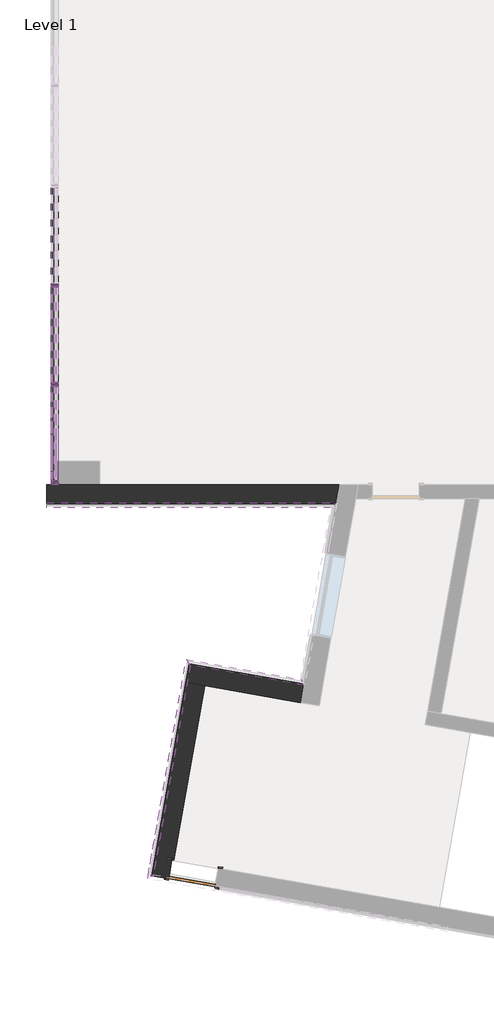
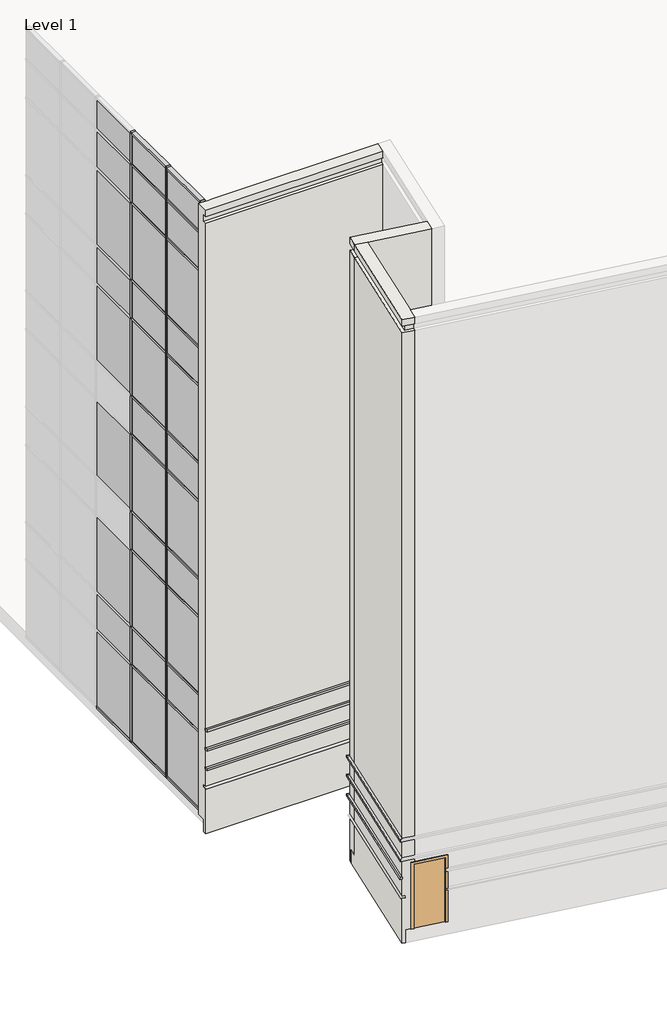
# One storey, part 1 of 23: 43 members, 31 plates, 9 proxies, 3 walls, 1 door.
"""IFC4 building model written with IfcOpenShell, lengths in millimetres."""

from ifc_helpers import new_model, si_unit, frame, origin, place, context, project, spatial, polyline, outline, extrude, faceted_brep, transform, mapped, element, save
from components import door_f5d74769, member_f92b8aa2, member_810865a4, member_6d5c3e5e, member_9764dd38, member_64ee9188, member_bca00a8a, member_8e09d03a, member_4d31274b, member_52939b3a, system_panel_glazed_14c75400, system_panel_glazed_4817d5da, system_panel_solid_5dfe6f83, system_panel_solid_e25e2004, system_panel_solid_b7551183, system_panel_solid_f88b124e, system_panel_solid_18cbf428, system_panel_solid_41530def

model = new_model("IFC4")

# Units and contexts
model_context = context("Model", 3, world=origin())
ifc_project = project(units=[si_unit("LENGTHUNIT", "METRE", prefix="MILLI")], contexts=[model_context])

# Site, building, storey
site = spatial("IfcSite", under=ifc_project)
building = spatial("IfcBuilding", under=site)
storey = spatial("IfcBuildingStorey", under=building, Name="Level 1", Elevation=0.0)

# Proxies
placement = place(None, origin())
element("IfcBuildingElementProxy", 1, Name="Reveals", at=placement, inside=storey, context=model_context, shape_type="SweptSolid", body=[
    extrude(outline(polyline([(-64209.7895211, -31309.2809359), (-64135.1020032, -31415.9457657), (-66236.287825, -31045.4500138), (-66310.9753429, -30938.785184), (-64209.7895211, -31309.2809359)])), frame((0.0, 0.0, 1625.6), z_axis=(0.0, 0.0, 1.0), x_axis=(1.0, 0.0, 0.0)), (0.0, 0.0, 1.0), 67.7333333),
])
element("IfcBuildingElementProxy", 2, Name="Reveals", at=placement, inside=storey, context=model_context, shape_type="SweptSolid", body=[
    extrude(outline(polyline([(-64209.7895211, -31309.2809359), (-64135.1020032, -31415.9457657), (-66236.287825, -31045.4500138), (-66310.9753429, -30938.785184), (-64209.7895211, -31309.2809359)])), frame((0.0, 0.0, 2235.2), z_axis=(0.0, 0.0, 1.0), x_axis=(1.0, 0.0, 0.0)), (0.0, 0.0, 1.0), 67.7333333),
])
element("IfcBuildingElementProxy", 3, Name="Reveals", at=placement, inside=storey, context=model_context, shape_type="SweptSolid", body=[
    extrude(outline(polyline([(-64209.7895211, -31309.2809359), (-64135.1020032, -31415.9457657), (-66236.287825, -31045.4500138), (-66310.9753429, -30938.785184), (-64209.7895211, -31309.2809359)])), frame((0.0, 0.0, 2844.8), z_axis=(0.0, 0.0, 1.0), x_axis=(1.0, 0.0, 0.0)), (0.0, 0.0, 1.0), 67.7333333),
])
element("IfcBuildingElementProxy", 4, Name="Reveals", at=placement, inside=storey, context=model_context, shape_type="SweptSolid", body=[
    extrude(outline(polyline([(-66310.9753429, -30938.785184), (-66236.287825, -31045.4500138), (-66919.9407005, -34922.6381374), (-67010.6168744, -34906.6494815), (-66310.9753429, -30938.785184)])), frame((0.0, 0.0, 1625.6), z_axis=(0.0, 0.0, 1.0), x_axis=(1.0, 0.0, 0.0)), (0.0, 0.0, 1.0), 67.7333333),
])
element("IfcBuildingElementProxy", 5, Name="Reveals", at=placement, inside=storey, context=model_context, shape_type="SweptSolid", body=[
    extrude(outline(polyline([(-66310.9753429, -30938.785184), (-66236.287825, -31045.4500138), (-66915.5300368, -34897.6240205), (-67022.1948666, -34972.3115384), (-66310.9753429, -30938.785184)])), frame((0.0, 0.0, 2235.2), z_axis=(0.0, 0.0, 1.0), x_axis=(1.0, 0.0, 0.0)), (0.0, 0.0, 1.0), 67.7333333),
])
element("IfcBuildingElementProxy", 6, Name="Reveals", at=placement, inside=storey, context=model_context, shape_type="SweptSolid", body=[
    extrude(outline(polyline([(-66310.9753429, -30938.785184), (-66236.287825, -31045.4500138), (-66915.5300368, -34897.6240205), (-67022.1948666, -34972.3115384), (-66310.9753429, -30938.785184)])), frame((0.0, 0.0, 2844.8), z_axis=(0.0, 0.0, 1.0), x_axis=(1.0, 0.0, 0.0)), (0.0, 0.0, 1.0), 67.7333333),
])
element("IfcBuildingElementProxy", 7, Name="Reveals", at=placement, inside=storey, context=model_context, shape_type="SweptSolid", body=[
    extrude(outline(polyline([(-63542.7957974, -28056.8103492), (-63652.5265095, -28148.8853492), (-68878.5489105, -28148.8853492), (-68878.5489105, -28056.8103492), (-63542.7957974, -28056.8103492)])), frame((0.0, 0.0, 1625.6), z_axis=(0.0, 0.0, 1.0), x_axis=(1.0, 0.0, 0.0)), (0.0, 0.0, 1.0), 67.7333333),
])
element("IfcBuildingElementProxy", 8, Name="Reveals", at=placement, inside=storey, context=model_context, shape_type="SweptSolid", body=[
    extrude(outline(polyline([(-63542.7957974, -28056.8103492), (-63652.5265095, -28148.8853492), (-68878.5489105, -28148.8853492), (-68878.5489105, -28056.8103492), (-63542.7957974, -28056.8103492)])), frame((0.0, 0.0, 2235.2), z_axis=(0.0, 0.0, 1.0), x_axis=(1.0, 0.0, 0.0)), (0.0, 0.0, 1.0), 67.7333333),
])
element("IfcBuildingElementProxy", 9, Name="Reveals", at=placement, inside=storey, context=model_context, shape_type="SweptSolid", body=[
    extrude(outline(polyline([(-63542.7957974, -28056.8103492), (-63652.5265095, -28148.8853492), (-68878.5489105, -28148.8853492), (-68878.5489105, -28056.8103492), (-63542.7957974, -28056.8103492)])), frame((0.0, 0.0, 2844.8), z_axis=(0.0, 0.0, 1.0), x_axis=(1.0, 0.0, 0.0)), (0.0, 0.0, 1.0), 67.7333333),
])

# Door
door_shape = door_f5d74769(model_context)
element("IfcDoor", 10, ObjectType="Single-Flush : 34\" x 80\"", at=placement, inside=storey, context=model_context, shape_type="MappedRepresentation", body=[
    mapped(door_shape, transform((-66179.5661532, -34874.2552841, 0.0), x_axis=(-0.9848077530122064, 0.17364817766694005, 0.0), y_axis=(-0.17364817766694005, -0.9848077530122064, 0.0), z_axis=(0.0, 0.0, 1.0))),
])

# Members
member_shape = member_f92b8aa2(model_context)
element("IfcMember", 11, ObjectType="Rectangular Mullion : 2.5\" x 5\" rectangular", at=placement, inside=storey, context=model_context, shape_type="MappedRepresentation", body=[
    mapped(member_shape, transform((-68724.2599961, -25885.1103492, 18288.0), x_axis=(0.0, 1.0, 0.0), y_axis=(1.0, 0.0, 0.0), z_axis=(0.0, 0.0, -1.0))),
])
element("IfcMember", 12, ObjectType="Rectangular Mullion : 2.5\" x 5\" rectangular", at=placement, inside=storey, context=model_context, shape_type="MappedRepresentation", body=[
    mapped(member_shape, transform((-68724.2599961, -24056.3103492, 18288.0), x_axis=(0.0, 1.0, 0.0), y_axis=(1.0, 0.0, 0.0), z_axis=(0.0, 0.0, -1.0))),
])
member_2_shape = member_810865a4(model_context)
element("IfcMember", 13, ObjectType="Rectangular Mullion : 2.5\" x 5\" rectangular", at=placement, inside=storey, context=model_context, shape_type="MappedRepresentation", body=[
    mapped(member_2_shape, transform((-68724.2599961, -25885.1103492, 3657.6), x_axis=(0.0, 1.0, 0.0), y_axis=(1.0, 0.0, 0.0), z_axis=(0.0, 0.0, -1.0))),
])
element("IfcMember", 14, ObjectType="Rectangular Mullion : 2.5\" x 5\" rectangular", at=placement, inside=storey, context=model_context, shape_type="MappedRepresentation", body=[
    mapped(member_2_shape, transform((-68724.2599961, -24056.3103492, 3657.6), x_axis=(0.0, 1.0, 0.0), y_axis=(1.0, 0.0, 0.0), z_axis=(0.0, 0.0, -1.0))),
])
element("IfcMember", 15, ObjectType="Rectangular Mullion : 2.5\" x 5\" rectangular", at=placement, inside=storey, context=model_context, shape_type="MappedRepresentation", body=[
    mapped(member_2_shape, transform((-68724.2599961, -25885.1103492, 7315.2), x_axis=(0.0, 1.0, 0.0), y_axis=(1.0, 0.0, 0.0), z_axis=(0.0, 0.0, -1.0))),
])
element("IfcMember", 16, ObjectType="Rectangular Mullion : 2.5\" x 5\" rectangular", at=placement, inside=storey, context=model_context, shape_type="MappedRepresentation", body=[
    mapped(member_2_shape, transform((-68724.2599961, -24056.3103492, 7315.2), x_axis=(0.0, 1.0, 0.0), y_axis=(1.0, 0.0, 0.0), z_axis=(0.0, 0.0, -1.0))),
])
element("IfcMember", 17, ObjectType="Rectangular Mullion : 2.5\" x 5\" rectangular", at=placement, inside=storey, context=model_context, shape_type="MappedRepresentation", body=[
    mapped(member_2_shape, transform((-68724.2599961, -25885.1103492, 10972.8), x_axis=(0.0, 1.0, 0.0), y_axis=(1.0, 0.0, 0.0), z_axis=(0.0, 0.0, -1.0))),
])
element("IfcMember", 18, ObjectType="Rectangular Mullion : 2.5\" x 5\" rectangular", at=placement, inside=storey, context=model_context, shape_type="MappedRepresentation", body=[
    mapped(member_2_shape, transform((-68724.2599961, -24056.3103492, 10972.8), x_axis=(0.0, 1.0, 0.0), y_axis=(1.0, 0.0, 0.0), z_axis=(0.0, 0.0, -1.0))),
])
element("IfcMember", 19, ObjectType="Rectangular Mullion : 2.5\" x 5\" rectangular", at=placement, inside=storey, context=model_context, shape_type="MappedRepresentation", body=[
    mapped(member_2_shape, transform((-68724.2599961, -25885.1103492, 14630.4), x_axis=(0.0, 1.0, 0.0), y_axis=(1.0, 0.0, 0.0), z_axis=(0.0, 0.0, -1.0))),
])
element("IfcMember", 20, ObjectType="Rectangular Mullion : 2.5\" x 5\" rectangular", at=placement, inside=storey, context=model_context, shape_type="MappedRepresentation", body=[
    mapped(member_2_shape, transform((-68724.2599961, -24056.3103492, 14630.4), x_axis=(0.0, 1.0, 0.0), y_axis=(1.0, 0.0, 0.0), z_axis=(0.0, 0.0, -1.0))),
])
member_3_shape = member_6d5c3e5e(model_context)
element("IfcMember", 21, ObjectType="Rectangular Mullion : 2.5\" x 5\" rectangular", at=placement, inside=storey, context=model_context, shape_type="MappedRepresentation", body=[
    mapped(member_3_shape, transform((-68724.2599961, -24088.0603492, 19304.0), x_axis=(0.0, 0.0, 1.0), y_axis=(1.0, 0.0, 0.0), z_axis=(0.0, 1.0, 0.0))),
])
member_4_shape = member_9764dd38(model_context)
element("IfcMember", 22, ObjectType="Rectangular Mullion : 2.5\" x 5\" rectangular", at=placement, inside=storey, context=model_context, shape_type="MappedRepresentation", body=[
    mapped(member_4_shape, transform((-68724.2599961, -24088.0603492, 17068.8), x_axis=(0.0, 0.0, 1.0), y_axis=(1.0, 0.0, 0.0), z_axis=(0.0, 1.0, 0.0))),
])
element("IfcMember", 23, ObjectType="Rectangular Mullion : 2.5\" x 5\" rectangular", at=placement, inside=storey, context=model_context, shape_type="MappedRepresentation", body=[
    mapped(member_4_shape, transform((-68724.2599961, -24088.0603492, 13411.2), x_axis=(0.0, 0.0, 1.0), y_axis=(1.0, 0.0, 0.0), z_axis=(0.0, 1.0, 0.0))),
])
element("IfcMember", 24, ObjectType="Rectangular Mullion : 2.5\" x 5\" rectangular", at=placement, inside=storey, context=model_context, shape_type="MappedRepresentation", body=[
    mapped(member_4_shape, transform((-68724.2599961, -24088.0603492, 9753.6), x_axis=(0.0, 0.0, 1.0), y_axis=(1.0, 0.0, 0.0), z_axis=(0.0, 1.0, 0.0))),
])
element("IfcMember", 25, ObjectType="Rectangular Mullion : 2.5\" x 5\" rectangular", at=placement, inside=storey, context=model_context, shape_type="MappedRepresentation", body=[
    mapped(member_4_shape, transform((-68724.2599961, -24088.0603492, 6096.0), x_axis=(0.0, 0.0, 1.0), y_axis=(1.0, 0.0, 0.0), z_axis=(0.0, 1.0, 0.0))),
])
element("IfcMember", 26, ObjectType="Rectangular Mullion : 2.5\" x 5\" rectangular", at=placement, inside=storey, context=model_context, shape_type="MappedRepresentation", body=[
    mapped(member_4_shape, transform((-68724.2599961, -24088.0603492, 2470.15), x_axis=(0.0, 0.0, 1.0), y_axis=(1.0, 0.0, 0.0), z_axis=(0.0, 1.0, 0.0))),
])
element("IfcMember", 27, ObjectType="Rectangular Mullion : 2.5\" x 5\" rectangular", at=placement, inside=storey, context=model_context, shape_type="MappedRepresentation", body=[
    mapped(member_2_shape, transform((-68724.2599961, -25885.1103492, 0.0), x_axis=(0.0, 1.0, 0.0), y_axis=(1.0, 0.0, 0.0), z_axis=(0.0, 0.0, -1.0))),
])
element("IfcMember", 28, ObjectType="Rectangular Mullion : 2.5\" x 5\" rectangular", at=placement, inside=storey, context=model_context, shape_type="MappedRepresentation", body=[
    mapped(member_2_shape, transform((-68724.2599961, -24056.3103492, 0.0), x_axis=(0.0, 1.0, 0.0), y_axis=(1.0, 0.0, 0.0), z_axis=(0.0, 0.0, -1.0))),
])
element("IfcMember", 29, ObjectType="Rectangular Mullion : 2.5\" x 5\" rectangular", at=placement, inside=storey, context=model_context, shape_type="MappedRepresentation", body=[
    mapped(member_3_shape, transform((-68724.2599961, -25853.3603492, 0.0), x_axis=(0.0, 0.0, -1.0), y_axis=(1.0, 0.0, 0.0), z_axis=(0.0, -1.0, 0.0))),
])
element("IfcMember", 30, ObjectType="Rectangular Mullion : 2.5\" x 5\" rectangular", at=placement, inside=storey, context=model_context, shape_type="MappedRepresentation", body=[
    mapped(member_3_shape, transform((-68724.2599961, -24024.5603492, 0.0), x_axis=(0.0, 0.0, -1.0), y_axis=(1.0, 0.0, 0.0), z_axis=(0.0, -1.0, 0.0))),
])
element("IfcMember", 31, ObjectType="Rectangular Mullion : 2.5\" x 5\" rectangular", at=placement, inside=storey, context=model_context, shape_type="MappedRepresentation", body=[
    mapped(member_4_shape, transform((-68724.2599961, -24088.0603492, 3657.6), x_axis=(0.0, 0.0, 1.0), y_axis=(1.0, 0.0, 0.0), z_axis=(0.0, 1.0, 0.0))),
])
element("IfcMember", 32, ObjectType="Rectangular Mullion : 2.5\" x 5\" rectangular", at=placement, inside=storey, context=model_context, shape_type="MappedRepresentation", body=[
    mapped(member_4_shape, transform((-68724.2599961, -24088.0603492, 7315.2), x_axis=(0.0, 0.0, 1.0), y_axis=(1.0, 0.0, 0.0), z_axis=(0.0, 1.0, 0.0))),
])
element("IfcMember", 33, ObjectType="Rectangular Mullion : 2.5\" x 5\" rectangular", at=placement, inside=storey, context=model_context, shape_type="MappedRepresentation", body=[
    mapped(member_4_shape, transform((-68724.2599961, -24088.0603492, 10972.8), x_axis=(0.0, 0.0, 1.0), y_axis=(1.0, 0.0, 0.0), z_axis=(0.0, 1.0, 0.0))),
])
element("IfcMember", 34, ObjectType="Rectangular Mullion : 2.5\" x 5\" rectangular", at=placement, inside=storey, context=model_context, shape_type="MappedRepresentation", body=[
    mapped(member_4_shape, transform((-68724.2599961, -24088.0603492, 14630.4), x_axis=(0.0, 0.0, 1.0), y_axis=(1.0, 0.0, 0.0), z_axis=(0.0, 1.0, 0.0))),
])
element("IfcMember", 35, ObjectType="Rectangular Mullion : 2.5\" x 5\" rectangular", at=placement, inside=storey, context=model_context, shape_type="MappedRepresentation", body=[
    mapped(member_4_shape, transform((-68724.2599961, -24088.0603492, 18288.0), x_axis=(0.0, 0.0, 1.0), y_axis=(1.0, 0.0, 0.0), z_axis=(0.0, 1.0, 0.0))),
])
member_5_shape = member_64ee9188(model_context)
element("IfcMember", 36, ObjectType="Rectangular Mullion : 2.5\" x 5\" rectangular", at=placement, inside=storey, context=model_context, shape_type="MappedRepresentation", body=[
    mapped(member_5_shape, transform((-68724.2599961, -25916.8603492, 19304.0), x_axis=(0.0, 0.0, 1.0), y_axis=(1.0, 0.0, 0.0), z_axis=(0.0, 1.0, 0.0))),
])
element("IfcMember", 37, ObjectType="Rectangular Mullion : 2.5\" x 5\" rectangular", at=placement, inside=storey, context=model_context, shape_type="MappedRepresentation", body=[
    mapped(member_5_shape, transform((-68724.2599961, -27650.4103492, 0.0), x_axis=(0.0, 0.0, -1.0), y_axis=(1.0, 0.0, 0.0), z_axis=(0.0, -1.0, 0.0))),
])
member_6_shape = member_bca00a8a(model_context)
element("IfcMember", 38, ObjectType="Rectangular Mullion : 2.5\" x 5\" rectangular", at=placement, inside=storey, context=model_context, shape_type="MappedRepresentation", body=[
    mapped(member_6_shape, transform((-68724.2599961, -25916.8603492, 3657.6), x_axis=(0.0, 0.0, 1.0), y_axis=(1.0, 0.0, 0.0), z_axis=(0.0, 1.0, 0.0))),
])
element("IfcMember", 39, ObjectType="Rectangular Mullion : 2.5\" x 5\" rectangular", at=placement, inside=storey, context=model_context, shape_type="MappedRepresentation", body=[
    mapped(member_6_shape, transform((-68724.2599961, -25916.8603492, 7315.2), x_axis=(0.0, 0.0, 1.0), y_axis=(1.0, 0.0, 0.0), z_axis=(0.0, 1.0, 0.0))),
])
element("IfcMember", 40, ObjectType="Rectangular Mullion : 2.5\" x 5\" rectangular", at=placement, inside=storey, context=model_context, shape_type="MappedRepresentation", body=[
    mapped(member_6_shape, transform((-68724.2599961, -25916.8603492, 10972.8), x_axis=(0.0, 0.0, 1.0), y_axis=(1.0, 0.0, 0.0), z_axis=(0.0, 1.0, 0.0))),
])
element("IfcMember", 41, ObjectType="Rectangular Mullion : 2.5\" x 5\" rectangular", at=placement, inside=storey, context=model_context, shape_type="MappedRepresentation", body=[
    mapped(member_6_shape, transform((-68724.2599961, -25916.8603492, 14630.4), x_axis=(0.0, 0.0, 1.0), y_axis=(1.0, 0.0, 0.0), z_axis=(0.0, 1.0, 0.0))),
])
element("IfcMember", 42, ObjectType="Rectangular Mullion : 2.5\" x 5\" rectangular", at=placement, inside=storey, context=model_context, shape_type="MappedRepresentation", body=[
    mapped(member_6_shape, transform((-68724.2599961, -25916.8603492, 18288.0), x_axis=(0.0, 0.0, 1.0), y_axis=(1.0, 0.0, 0.0), z_axis=(0.0, 1.0, 0.0))),
])
member_7_shape = member_8e09d03a(model_context)
element("IfcMember", 43, ObjectType="Rectangular Mullion : 2.5\" x 5\" rectangular", at=placement, inside=storey, context=model_context, shape_type="MappedRepresentation", body=[
    mapped(member_7_shape, transform((-68724.2599961, -27713.9103492, 19304.0), x_axis=(0.0, -1.0, 0.0), y_axis=(1.0, 0.0, 0.0), z_axis=(0.0, 0.0, 1.0))),
])
member_8_shape = member_4d31274b(model_context)
element("IfcMember", 44, ObjectType="Rectangular Mullion : 2.5\" x 5\" rectangular", at=placement, inside=storey, context=model_context, shape_type="MappedRepresentation", body=[
    mapped(member_8_shape, transform((-68724.2599961, -27713.9103492, 3657.6), x_axis=(0.0, -1.0, 0.0), y_axis=(1.0, 0.0, 0.0), z_axis=(0.0, 0.0, 1.0))),
])
element("IfcMember", 45, ObjectType="Rectangular Mullion : 2.5\" x 5\" rectangular", at=placement, inside=storey, context=model_context, shape_type="MappedRepresentation", body=[
    mapped(member_8_shape, transform((-68724.2599961, -27713.9103492, 7315.2), x_axis=(0.0, -1.0, 0.0), y_axis=(1.0, 0.0, 0.0), z_axis=(0.0, 0.0, 1.0))),
])
element("IfcMember", 46, ObjectType="Rectangular Mullion : 2.5\" x 5\" rectangular", at=placement, inside=storey, context=model_context, shape_type="MappedRepresentation", body=[
    mapped(member_8_shape, transform((-68724.2599961, -27713.9103492, 10972.8), x_axis=(0.0, -1.0, 0.0), y_axis=(1.0, 0.0, 0.0), z_axis=(0.0, 0.0, 1.0))),
])
element("IfcMember", 47, ObjectType="Rectangular Mullion : 2.5\" x 5\" rectangular", at=placement, inside=storey, context=model_context, shape_type="MappedRepresentation", body=[
    mapped(member_8_shape, transform((-68724.2599961, -27713.9103492, 14630.4), x_axis=(0.0, -1.0, 0.0), y_axis=(1.0, 0.0, 0.0), z_axis=(0.0, 0.0, 1.0))),
])
element("IfcMember", 48, ObjectType="Rectangular Mullion : 2.5\" x 5\" rectangular", at=placement, inside=storey, context=model_context, shape_type="MappedRepresentation", body=[
    mapped(member_8_shape, transform((-68724.2599961, -27713.9103492, 18288.0), x_axis=(0.0, -1.0, 0.0), y_axis=(1.0, 0.0, 0.0), z_axis=(0.0, 0.0, 1.0))),
])
member_9_shape = member_52939b3a(model_context)
element("IfcMember", 49, ObjectType="Rectangular Mullion : 2.5\" x 5\" rectangular", at=placement, inside=storey, context=model_context, shape_type="MappedRepresentation", body=[
    mapped(member_9_shape, transform((-68724.2599961, -25916.8603492, 17068.8), x_axis=(0.0, 0.0, 1.0), y_axis=(1.0, 0.0, 0.0), z_axis=(0.0, 1.0, 0.0))),
])
element("IfcMember", 50, ObjectType="Rectangular Mullion : 2.5\" x 5\" rectangular", at=placement, inside=storey, context=model_context, shape_type="MappedRepresentation", body=[
    mapped(member_9_shape, transform((-68724.2599961, -25916.8603492, 13411.2), x_axis=(0.0, 0.0, 1.0), y_axis=(1.0, 0.0, 0.0), z_axis=(0.0, 1.0, 0.0))),
])
element("IfcMember", 51, ObjectType="Rectangular Mullion : 2.5\" x 5\" rectangular", at=placement, inside=storey, context=model_context, shape_type="MappedRepresentation", body=[
    mapped(member_9_shape, transform((-68724.2599961, -25916.8603492, 9753.6), x_axis=(0.0, 0.0, 1.0), y_axis=(1.0, 0.0, 0.0), z_axis=(0.0, 1.0, 0.0))),
])
element("IfcMember", 52, ObjectType="Rectangular Mullion : 2.5\" x 5\" rectangular", at=placement, inside=storey, context=model_context, shape_type="MappedRepresentation", body=[
    mapped(member_9_shape, transform((-68724.2599961, -25916.8603492, 6096.0), x_axis=(0.0, 0.0, 1.0), y_axis=(1.0, 0.0, 0.0), z_axis=(0.0, 1.0, 0.0))),
])
element("IfcMember", 53, ObjectType="Rectangular Mullion : 2.5\" x 5\" rectangular", at=placement, inside=storey, context=model_context, shape_type="MappedRepresentation", body=[
    mapped(member_9_shape, transform((-68724.2599961, -25916.8603492, 2470.15), x_axis=(0.0, 0.0, 1.0), y_axis=(1.0, 0.0, 0.0), z_axis=(0.0, 1.0, 0.0))),
])

# Plates
system_panel_glazed_shape = system_panel_glazed_14c75400(model_context)
element("IfcPlate", 54, ObjectType="System Panel : Glazed", at=placement, inside=storey, context=model_context, shape_type="MappedRepresentation", body=[
    mapped(system_panel_glazed_shape, transform((-68724.2599961, -23141.9103492, 14662.15), x_axis=(0.0, 1.0, 0.0), y_axis=(-1.0, 0.0, 0.0), z_axis=(0.0, 0.0, 1.0))),
])
element("IfcPlate", 55, ObjectType="System Panel : Glazed", at=placement, inside=storey, context=model_context, shape_type="MappedRepresentation", body=[
    mapped(system_panel_glazed_shape, transform((-68724.2599961, -24970.7103492, 14662.15), x_axis=(0.0, 1.0, 0.0), y_axis=(-1.0, 0.0, 0.0), z_axis=(0.0, 0.0, 1.0))),
])
element("IfcPlate", 56, ObjectType="System Panel : Glazed", at=placement, inside=storey, context=model_context, shape_type="MappedRepresentation", body=[
    mapped(system_panel_glazed_shape, transform((-68724.2599961, -23141.9103492, 11004.55), x_axis=(0.0, 1.0, 0.0), y_axis=(-1.0, 0.0, 0.0), z_axis=(0.0, 0.0, 1.0))),
])
element("IfcPlate", 57, ObjectType="System Panel : Glazed", at=placement, inside=storey, context=model_context, shape_type="MappedRepresentation", body=[
    mapped(system_panel_glazed_shape, transform((-68724.2599961, -24970.7103492, 11004.55), x_axis=(0.0, 1.0, 0.0), y_axis=(-1.0, 0.0, 0.0), z_axis=(0.0, 0.0, 1.0))),
])
element("IfcPlate", 58, ObjectType="System Panel : Glazed", at=placement, inside=storey, context=model_context, shape_type="MappedRepresentation", body=[
    mapped(system_panel_glazed_shape, transform((-68724.2599961, -23141.9103492, 7346.95), x_axis=(0.0, 1.0, 0.0), y_axis=(-1.0, 0.0, 0.0), z_axis=(0.0, 0.0, 1.0))),
])
element("IfcPlate", 59, ObjectType="System Panel : Glazed", at=placement, inside=storey, context=model_context, shape_type="MappedRepresentation", body=[
    mapped(system_panel_glazed_shape, transform((-68724.2599961, -24970.7103492, 7346.95), x_axis=(0.0, 1.0, 0.0), y_axis=(-1.0, 0.0, 0.0), z_axis=(0.0, 0.0, 1.0))),
])
element("IfcPlate", 60, ObjectType="System Panel : Glazed", at=placement, inside=storey, context=model_context, shape_type="MappedRepresentation", body=[
    mapped(system_panel_glazed_shape, transform((-68724.2599961, -23141.9103492, 3689.35), x_axis=(0.0, 1.0, 0.0), y_axis=(-1.0, 0.0, 0.0), z_axis=(0.0, 0.0, 1.0))),
])
element("IfcPlate", 61, ObjectType="System Panel : Glazed", at=placement, inside=storey, context=model_context, shape_type="MappedRepresentation", body=[
    mapped(system_panel_glazed_shape, transform((-68724.2599961, -24970.7103492, 3689.35), x_axis=(0.0, 1.0, 0.0), y_axis=(-1.0, 0.0, 0.0), z_axis=(0.0, 0.0, 1.0))),
])
element("IfcPlate", 62, ObjectType="System Panel : Glazed", at=placement, inside=storey, context=model_context, shape_type="MappedRepresentation", body=[
    mapped(system_panel_glazed_shape, transform((-68724.2599961, -23141.9103492, 63.5), x_axis=(0.0, 1.0, 0.0), y_axis=(-1.0, 0.0, 0.0), z_axis=(0.0, 0.0, 1.0))),
])
element("IfcPlate", 63, ObjectType="System Panel : Glazed", at=placement, inside=storey, context=model_context, shape_type="MappedRepresentation", body=[
    mapped(system_panel_glazed_shape, transform((-68724.2599961, -24970.7103492, 63.5), x_axis=(0.0, 1.0, 0.0), y_axis=(-1.0, 0.0, 0.0), z_axis=(0.0, 0.0, 1.0))),
])
system_panel_glazed_2_shape = system_panel_glazed_4817d5da(model_context)
element("IfcPlate", 64, ObjectType="System Panel : Glazed", at=placement, inside=storey, context=model_context, shape_type="MappedRepresentation", body=[
    mapped(system_panel_glazed_2_shape, transform((-68724.2599961, -26823.3228492, 14662.15), x_axis=(0.0, 1.0, 0.0), y_axis=(-1.0, 0.0, 0.0), z_axis=(0.0, 0.0, 1.0))),
])
element("IfcPlate", 65, ObjectType="System Panel : Glazed", at=placement, inside=storey, context=model_context, shape_type="MappedRepresentation", body=[
    mapped(system_panel_glazed_2_shape, transform((-68724.2599961, -26823.3228492, 11004.55), x_axis=(0.0, 1.0, 0.0), y_axis=(-1.0, 0.0, 0.0), z_axis=(0.0, 0.0, 1.0))),
])
element("IfcPlate", 66, ObjectType="System Panel : Glazed", at=placement, inside=storey, context=model_context, shape_type="MappedRepresentation", body=[
    mapped(system_panel_glazed_2_shape, transform((-68724.2599961, -26823.3228492, 7346.95), x_axis=(0.0, 1.0, 0.0), y_axis=(-1.0, 0.0, 0.0), z_axis=(0.0, 0.0, 1.0))),
])
element("IfcPlate", 67, ObjectType="System Panel : Glazed", at=placement, inside=storey, context=model_context, shape_type="MappedRepresentation", body=[
    mapped(system_panel_glazed_2_shape, transform((-68724.2599961, -26823.3228492, 3689.35), x_axis=(0.0, 1.0, 0.0), y_axis=(-1.0, 0.0, 0.0), z_axis=(0.0, 0.0, 1.0))),
])
element("IfcPlate", 68, ObjectType="System Panel : Glazed", at=placement, inside=storey, context=model_context, shape_type="MappedRepresentation", body=[
    mapped(system_panel_glazed_2_shape, transform((-68724.2599961, -26823.3228492, 63.5), x_axis=(0.0, 1.0, 0.0), y_axis=(-1.0, 0.0, 0.0), z_axis=(0.0, 0.0, 1.0))),
])
system_panel_solid_shape = system_panel_solid_5dfe6f83(model_context)
element("IfcPlate", 69, ObjectType="System Panel : Solid", at=placement, inside=storey, context=model_context, shape_type="MappedRepresentation", body=[
    mapped(system_panel_solid_shape, transform((-68724.2599961, -24970.7103492, 18319.75), x_axis=(0.0, 1.0, 0.0), y_axis=(-1.0, 0.0, 0.0), z_axis=(0.0, 0.0, 1.0))),
])
element("IfcPlate", 70, ObjectType="System Panel : Solid", at=placement, inside=storey, context=model_context, shape_type="MappedRepresentation", body=[
    mapped(system_panel_solid_shape, transform((-68724.2599961, -23141.9103492, 18319.75), x_axis=(0.0, 1.0, 0.0), y_axis=(-1.0, 0.0, 0.0), z_axis=(0.0, 0.0, 1.0))),
])
system_panel_solid_2_shape = system_panel_solid_e25e2004(model_context)
element("IfcPlate", 71, ObjectType="System Panel : Solid", at=placement, inside=storey, context=model_context, shape_type="MappedRepresentation", body=[
    mapped(system_panel_solid_2_shape, transform((-68724.2599961, -23141.9103492, 17100.55), x_axis=(0.0, 1.0, 0.0), y_axis=(-1.0, 0.0, 0.0), z_axis=(0.0, 0.0, 1.0))),
])
element("IfcPlate", 72, ObjectType="System Panel : Solid", at=placement, inside=storey, context=model_context, shape_type="MappedRepresentation", body=[
    mapped(system_panel_solid_2_shape, transform((-68724.2599961, -24970.7103492, 17100.55), x_axis=(0.0, 1.0, 0.0), y_axis=(-1.0, 0.0, 0.0), z_axis=(0.0, 0.0, 1.0))),
])
element("IfcPlate", 73, ObjectType="System Panel : Solid", at=placement, inside=storey, context=model_context, shape_type="MappedRepresentation", body=[
    mapped(system_panel_solid_2_shape, transform((-68724.2599961, -23141.9103492, 13442.95), x_axis=(0.0, 1.0, 0.0), y_axis=(-1.0, 0.0, 0.0), z_axis=(0.0, 0.0, 1.0))),
])
element("IfcPlate", 74, ObjectType="System Panel : Solid", at=placement, inside=storey, context=model_context, shape_type="MappedRepresentation", body=[
    mapped(system_panel_solid_2_shape, transform((-68724.2599961, -24970.7103492, 13442.95), x_axis=(0.0, 1.0, 0.0), y_axis=(-1.0, 0.0, 0.0), z_axis=(0.0, 0.0, 1.0))),
])
element("IfcPlate", 75, ObjectType="System Panel : Solid", at=placement, inside=storey, context=model_context, shape_type="MappedRepresentation", body=[
    mapped(system_panel_solid_2_shape, transform((-68724.2599961, -24970.7103492, 9785.35), x_axis=(0.0, 1.0, 0.0), y_axis=(-1.0, 0.0, 0.0), z_axis=(0.0, 0.0, 1.0))),
])
element("IfcPlate", 76, ObjectType="System Panel : Solid", at=placement, inside=storey, context=model_context, shape_type="MappedRepresentation", body=[
    mapped(system_panel_solid_2_shape, transform((-68724.2599961, -24970.7103492, 6127.75), x_axis=(0.0, 1.0, 0.0), y_axis=(-1.0, 0.0, 0.0), z_axis=(0.0, 0.0, 1.0))),
])
system_panel_solid_3_shape = system_panel_solid_b7551183(model_context)
element("IfcPlate", 77, ObjectType="System Panel : Solid", at=placement, inside=storey, context=model_context, shape_type="MappedRepresentation", body=[
    mapped(system_panel_solid_3_shape, transform((-68724.2599961, -23141.9103492, 2501.9), x_axis=(0.0, 1.0, 0.0), y_axis=(-1.0, 0.0, 0.0), z_axis=(0.0, 0.0, 1.0))),
])
element("IfcPlate", 78, ObjectType="System Panel : Solid", at=placement, inside=storey, context=model_context, shape_type="MappedRepresentation", body=[
    mapped(system_panel_solid_3_shape, transform((-68724.2599961, -24970.7103492, 2501.9), x_axis=(0.0, 1.0, 0.0), y_axis=(-1.0, 0.0, 0.0), z_axis=(0.0, 0.0, 1.0))),
])
system_panel_solid_4_shape = system_panel_solid_f88b124e(model_context)
element("IfcPlate", 79, ObjectType="System Panel : Solid", at=placement, inside=storey, context=model_context, shape_type="MappedRepresentation", body=[
    mapped(system_panel_solid_4_shape, transform((-68724.2599961, -26783.6353492, 18319.75), x_axis=(0.0, 1.0, 0.0), y_axis=(-1.0, 0.0, 0.0), z_axis=(0.0, 0.0, 1.0))),
])
system_panel_solid_5_shape = system_panel_solid_18cbf428(model_context)
element("IfcPlate", 80, ObjectType="System Panel : Solid", at=placement, inside=storey, context=model_context, shape_type="MappedRepresentation", body=[
    mapped(system_panel_solid_5_shape, transform((-68724.2599961, -26823.3228492, 17100.55), x_axis=(0.0, 1.0, 0.0), y_axis=(-1.0, 0.0, 0.0), z_axis=(0.0, 0.0, 1.0))),
])
element("IfcPlate", 81, ObjectType="System Panel : Solid", at=placement, inside=storey, context=model_context, shape_type="MappedRepresentation", body=[
    mapped(system_panel_solid_5_shape, transform((-68724.2599961, -26823.3228492, 13442.95), x_axis=(0.0, 1.0, 0.0), y_axis=(-1.0, 0.0, 0.0), z_axis=(0.0, 0.0, 1.0))),
])
element("IfcPlate", 82, ObjectType="System Panel : Solid", at=placement, inside=storey, context=model_context, shape_type="MappedRepresentation", body=[
    mapped(system_panel_solid_5_shape, transform((-68724.2599961, -26823.3228492, 9785.35), x_axis=(0.0, 1.0, 0.0), y_axis=(-1.0, 0.0, 0.0), z_axis=(0.0, 0.0, 1.0))),
])
element("IfcPlate", 83, ObjectType="System Panel : Solid", at=placement, inside=storey, context=model_context, shape_type="MappedRepresentation", body=[
    mapped(system_panel_solid_5_shape, transform((-68724.2599961, -26823.3228492, 6127.75), x_axis=(0.0, 1.0, 0.0), y_axis=(-1.0, 0.0, 0.0), z_axis=(0.0, 0.0, 1.0))),
])
system_panel_solid_6_shape = system_panel_solid_41530def(model_context)
element("IfcPlate", 84, ObjectType="System Panel : Solid", at=placement, inside=storey, context=model_context, shape_type="MappedRepresentation", body=[
    mapped(system_panel_solid_6_shape, transform((-68724.2599961, -26823.3228492, 2501.9), x_axis=(0.0, 1.0, 0.0), y_axis=(-1.0, 0.0, 0.0), z_axis=(0.0, 0.0, 1.0))),
])

# Walls
element("IfcWall", 85, ObjectType="Exterior - Brick and CMU on MTL. Stud", at=placement, inside=storey, context=model_context, shape_type="Brep", body=[
    faceted_brep([(-66256.8912782, -31016.0252332, 19304.0), (-64155.7054564, -31386.5209851, 19304.0), (-64155.7054564, -31386.5209851, 19100.8), (-66256.8912782, -31016.0252332, 19100.8), (-64155.7054564, -31386.5209851, -406.4), (-66256.8912782, -31016.0252332, -406.4), (-66256.8912782, -31016.0252332, 1016.0), (-64155.7054564, -31386.5209851, 1016.0), (-64155.7054564, -31386.5209851, 1693.3333333), (-66256.8912782, -31016.0252332, 1693.3333333), (-66256.8912782, -31016.0252332, 2235.2), (-64155.7054564, -31386.5209851, 2235.2), (-66256.8912782, -31016.0252332, 1625.6), (-64155.7054564, -31386.5209851, 1625.6), (-64155.7054564, -31386.5209851, 1085.85), (-66256.8912782, -31016.0252332, 1085.85), (-64155.7054564, -31386.5209851, 2302.9333333), (-66256.8912782, -31016.0252332, 2302.9333333), (-66256.8912782, -31016.0252332, 2844.8), (-64155.7054564, -31386.5209851, 2844.8), (-64155.7054564, -31386.5209851, 2912.5333333), (-66256.8912782, -31016.0252332, 2912.5333333), (-66256.8912782, -31016.0252332, 18897.6), (-64155.7054564, -31386.5209851, 18897.6), (-66318.0892373, -31363.0961055, 0.0), (-65971.0183649, -31424.2940646, 0.0), (-64216.9034154, -31733.5918574, 0.0), (-64216.9034154, -31733.5918574, 3222.625), (-65983.5254234, -31422.0887327, 3222.625), (-65983.5254234, -31422.0887327, 3657.6), (-64216.9034154, -31733.5918574, 3657.6), (-64216.9034154, -31733.5918574, 19304.0), (-65971.0183649, -31424.2940646, 19304.0), (-66318.0892373, -31363.0961055, 19304.0), (-66318.0892373, -31363.0961055, 19100.8), (-66227.4130634, -31379.0847615, 19100.8), (-66227.4130634, -31379.0847615, 18897.6), (-66318.0892373, -31363.0961055, 18897.6), (-66318.0892373, -31363.0961055, 2912.5333333), (-66293.0751203, -31367.5067693, 2912.5333333), (-66293.0751203, -31367.5067693, 2844.8), (-66318.0892373, -31363.0961055, 2844.8), (-66318.0892373, -31363.0961055, 2302.9333333), (-66293.0751203, -31367.5067693, 2302.9333333), (-66293.0751203, -31367.5067693, 2235.2), (-66318.0892373, -31363.0961055, 2235.2), (-66318.0892373, -31363.0961055, 1693.3333333), (-66293.0751203, -31367.5067693, 1693.3333333), (-66293.0751203, -31367.5067693, 1625.6), (-66318.0892373, -31363.0961055, 1625.6), (-66318.0892373, -31363.0961055, 1085.85), (-66227.4130634, -31379.0847615, 1085.85), (-66227.4130634, -31379.0847615, 1016.0), (-66318.0892373, -31363.0961055, 1016.0), (-64214.6980836, -31721.084799, 3657.6), (-64214.6980836, -31721.084799, 3222.625), (-64171.6941124, -31477.1971589, 0.0), (-64171.6941124, -31477.1971589, -406.4), (-64171.6941124, -31477.1971589, 1016.0), (-64171.6941124, -31477.1971589, 1085.85), (-64160.1161201, -31411.535102, 1625.6), (-64160.1161201, -31411.535102, 1693.3333333), (-64160.1161201, -31411.535102, 2235.2), (-64160.1161201, -31411.535102, 2302.9333333), (-64160.1161201, -31411.535102, 2844.8), (-64160.1161201, -31411.535102, 2912.5333333), (-64171.6941124, -31477.1971589, 18897.6), (-64171.6941124, -31477.1971589, 19100.8), (-66272.8799342, -31106.701407, 0.0), (-66272.8799342, -31106.701407, -406.4), (-66182.2037603, -31122.690063, 0.0), (-66236.287825, -31045.4500138, 1693.3333333), (-66236.287825, -31045.4500138, 1625.6), (-66236.287825, -31045.4500138, 2302.9333333), (-66236.287825, -31045.4500138, 2235.2), (-66236.287825, -31045.4500138, 2912.5333333), (-66236.287825, -31045.4500138, 2844.8), (-66182.2037603, -31122.690063, 1085.85), (-66182.2037603, -31122.690063, 1016.0), (-66182.2037603, -31122.690063, 18897.6), (-66182.2037603, -31122.690063, 19100.8), (-66182.2037603, -31122.690063, -406.4), (-65981.3200915, -31409.5816742, 3222.625), (-65981.3200915, -31409.5816742, 3657.6)], [[[0, 1, 2, 3]], [[4, 5, 6, 7]], [[8, 9, 10, 11]], [[12, 13, 14, 15]], [[16, 17, 18, 19]], [[20, 21, 22, 23]], [[24, 25, 26, 27, 28, 29, 30, 31, 32, 33, 34, 35, 36, 37, 38, 39, 40, 41, 42, 43, 44, 45, 46, 47, 48, 49, 50, 51, 52, 53]], [[1, 0, 33, 32, 31]], [[1, 31, 30, 54, 55, 27, 26, 56, 57, 4, 7, 58, 59, 14, 13, 60, 61, 8, 11, 62, 63, 16, 19, 64, 65, 20, 23, 66, 67, 2]], [[33, 0, 3, 34]], [[9, 46, 45, 10]], [[49, 12, 15, 50]], [[17, 42, 41, 18]], [[21, 38, 37, 22]], [[68, 24, 53, 6, 5, 69]], [[26, 25, 24, 68, 70, 56]], [[47, 46, 9, 8, 61, 71]], [[49, 48, 72, 60, 13, 12]], [[72, 71, 61, 60]], [[71, 72, 48, 47]], [[43, 42, 17, 16, 63, 73]], [[45, 44, 74, 62, 11, 10]], [[74, 73, 63, 62]], [[73, 74, 44, 43]], [[39, 38, 21, 20, 65, 75]], [[41, 40, 76, 64, 19, 18]], [[76, 75, 65, 64]], [[75, 76, 40, 39]], [[51, 50, 15, 14, 59, 77]], [[53, 52, 78, 58, 7, 6]], [[78, 77, 59, 58]], [[77, 78, 52, 51]], [[37, 36, 79, 66, 23, 22]], [[35, 34, 3, 2, 67, 80]], [[79, 80, 67, 66]], [[80, 79, 36, 35]], [[57, 56, 70, 68, 69, 81]], [[5, 4, 57, 81, 69]], [[55, 82, 28, 27]], [[29, 83, 54, 30]], [[82, 83, 29, 28]], [[83, 82, 55, 54]]]),
])
element("IfcWall", 86, ObjectType="Exterior - Brick and CMU on MTL. Stud", at=placement, inside=storey, context=model_context, shape_type="Brep", body=[
    faceted_brep([(-66944.9548174, -34918.2274737, 19304.0), (-66318.0892373, -31363.0961055, 19304.0), (-66318.0892373, -31363.0961055, 19100.8), (-66944.9548174, -34918.2274737, 19100.8), (-66318.0892373, -31363.0961055, 1693.3333333), (-66944.9548174, -34918.2274737, 1693.3333333), (-66944.9548174, -34918.2274737, 2235.2), (-66318.0892373, -31363.0961055, 2235.2), (-66944.9548174, -34918.2274737, 1625.6), (-66318.0892373, -31363.0961055, 1625.6), (-66318.0892373, -31363.0961055, 1085.85), (-66944.9548174, -34918.2274737, 1085.85), (-66318.0892373, -31363.0961055, 2302.9333333), (-66944.9548174, -34918.2274737, 2302.9333333), (-66944.9548174, -34918.2274737, 2844.8), (-66318.0892373, -31363.0961055, 2844.8), (-66318.0892373, -31363.0961055, 2912.5333333), (-66944.9548174, -34918.2274737, 2912.5333333), (-66944.9548174, -34918.2274737, 18897.6), (-66318.0892373, -31363.0961055, 18897.6), (-66944.9548174, -34918.2274737, -406.4), (-66944.9548174, -34918.2274737, 1016.0), (-66318.0892373, -31363.0961055, 1016.0), (-66318.0892373, -31363.0961055, 0.0), (-66272.8799342, -31106.701407, 0.0), (-66272.8799342, -31106.701407, -406.4), (-65971.0183649, -31424.2940646, 19304.0), (-66536.6859861, -34632.3545604, 19304.0), (-66597.8839451, -34979.4254327, 19304.0), (-66597.8839451, -34979.4254327, 19100.8), (-66581.8952891, -34888.7492589, 19100.8), (-66581.8952891, -34888.7492589, 18897.6), (-66597.8839451, -34979.4254327, 18897.6), (-66597.8839451, -34979.4254327, 2912.5333333), (-66593.4732814, -34954.4113158, 2912.5333333), (-66593.4732814, -34954.4113158, 2844.8), (-66597.8839451, -34979.4254327, 2844.8), (-66597.8839451, -34979.4254327, 2302.9333333), (-66593.4732814, -34954.4113158, 2302.9333333), (-66593.4732814, -34954.4113158, 2235.2), (-66597.8839451, -34979.4254327, 2235.2), (-66597.8839451, -34979.4254327, 2032.0), (-66536.6859861, -34632.3545604, 2032.0), (-66536.6859861, -34632.3545604, 0.0), (-65971.0183649, -31424.2940646, 0.0), (-65971.0183649, -31424.2940646, 3222.625), (-66538.8913179, -34644.8616188, 3222.625), (-66538.8913179, -34644.8616188, 3657.6), (-65971.0183649, -31424.2940646, 3657.6), (-65983.5254234, -31422.0887327, 3657.6), (-65983.5254234, -31422.0887327, 3222.625), (-66227.4130634, -31379.0847615, 0.0), (-66227.4130634, -31379.0847615, 1016.0), (-66227.4130634, -31379.0847615, 1085.85), (-66293.0751203, -31367.5067693, 1625.6), (-66293.0751203, -31367.5067693, 1693.3333333), (-66293.0751203, -31367.5067693, 2235.2), (-66293.0751203, -31367.5067693, 2302.9333333), (-66293.0751203, -31367.5067693, 2844.8), (-66293.0751203, -31367.5067693, 2912.5333333), (-66227.4130634, -31379.0847615, 18897.6), (-66227.4130634, -31379.0847615, 19100.8), (-66854.2786436, -34934.2161297, -406.4), (-66854.2786436, -34934.2161297, 0.0), (-66635.4051205, -34972.8094372, 0.0), (-66635.4051205, -34972.8094372, 2032.0), (-66919.9407005, -34922.6381374, 1693.3333333), (-66919.9407005, -34922.6381374, 1625.6), (-66854.2786436, -34934.2161297, 1085.85), (-66854.2786436, -34934.2161297, 1016.0), (-66574.2071614, -34625.7385648, 0.0), (-66838.2899876, -34843.5399558, 0.0), (-66915.5300368, -34897.6240205, 2302.9333333), (-66915.5300368, -34897.6240205, 2235.2), (-66915.5300368, -34897.6240205, 2912.5333333), (-66915.5300368, -34897.6240205, 2844.8), (-66838.2899876, -34843.5399558, 18897.6), (-66838.2899876, -34843.5399558, 19100.8), (-66838.2899876, -34843.5399558, -406.4), (-66182.2037603, -31122.690063, -406.4), (-66182.2037603, -31122.690063, 0.0), (-66574.2071614, -34625.7385648, 2032.0), (-66551.3983764, -34642.656287, 3222.625), (-66551.3983764, -34642.656287, 3657.6)], [[[0, 1, 2, 3]], [[4, 5, 6, 7]], [[8, 9, 10, 11]], [[12, 13, 14, 15]], [[16, 17, 18, 19]], [[20, 21, 22, 23, 24, 25]], [[26, 27, 28, 29, 30, 31, 32, 33, 34, 35, 36, 37, 38, 39, 40, 41, 42, 43, 44, 45, 46, 47, 48]], [[1, 0, 28, 27, 26]], [[1, 26, 48, 49, 50, 45, 44, 51, 23, 22, 52, 53, 10, 9, 54, 55, 4, 7, 56, 57, 12, 15, 58, 59, 16, 19, 60, 61, 2]], [[28, 0, 3, 29]], [[13, 37, 36, 14]], [[17, 33, 32, 18]], [[62, 63, 64, 65, 41, 40, 6, 5, 66, 67, 8, 11, 68, 69, 21, 20]], [[51, 44, 43, 70, 64, 63, 71]], [[4, 55, 66, 5]], [[54, 9, 8, 67]], [[55, 54, 67, 66]], [[38, 37, 13, 12, 57, 72]], [[40, 39, 73, 56, 7, 6]], [[73, 72, 57, 56]], [[72, 73, 39, 38]], [[34, 33, 17, 16, 59, 74]], [[36, 35, 75, 58, 15, 14]], [[75, 74, 59, 58]], [[74, 75, 35, 34]], [[10, 53, 68, 11]], [[52, 22, 21, 69]], [[53, 52, 69, 68]], [[32, 31, 76, 60, 19, 18]], [[30, 29, 3, 2, 61, 77]], [[76, 77, 61, 60]], [[77, 76, 31, 30]], [[51, 71, 63, 62, 78, 79, 80]], [[62, 20, 25, 79, 78]], [[81, 70, 43, 42]], [[70, 81, 65, 64]], [[65, 81, 42, 41]], [[24, 23, 51, 80]], [[79, 25, 24, 80]], [[50, 82, 46, 45]], [[47, 83, 49, 48]], [[82, 83, 47, 46]], [[83, 82, 50, 49]]]),
])
element("IfcWall", 87, ObjectType="Exterior - Brick and CMU on MTL. Stud", at=placement, inside=storey, context=model_context, shape_type="Brep", body=[
    faceted_brep([(-63510.9243025, -27729.7853492, 0.0), (-68878.5489105, -27729.7853492, 0.0), (-68878.5489105, -27729.7853492, 19304.0), (-68619.7864105, -27729.7853492, 19304.0), (-68426.1114105, -27729.7853492, 19304.0), (-63510.9243025, -27729.7853492, 19304.0), (-63510.9243025, -27729.7853492, 3657.6), (-68660.7599961, -27729.7853492, 3657.6), (-68660.7599961, -27729.7853492, 3222.625), (-63510.9243025, -27729.7853492, 3222.625), (-63573.0663387, -28082.2103492, 19304.0), (-68878.5489105, -28082.2103492, 19304.0), (-68878.5489105, -28082.2103492, 19100.8), (-63573.0663387, -28082.2103492, 19100.8), (-68878.5489105, -28082.2103492, -406.4), (-63573.0663387, -28082.2103492, -406.4), (-63573.0663387, -28082.2103492, 1016.0), (-68878.5489105, -28082.2103492, 1016.0), (-68878.5489105, -28082.2103492, 2235.2), (-68878.5489105, -28082.2103492, 1693.3333333), (-63573.0663387, -28082.2103492, 1693.3333333), (-63573.0663387, -28082.2103492, 2235.2), (-68878.5489105, -28082.2103492, 2844.8), (-68878.5489105, -28082.2103492, 2302.9333333), (-63573.0663387, -28082.2103492, 2302.9333333), (-63573.0663387, -28082.2103492, 2844.8), (-68878.5489105, -28082.2103492, 1625.6), (-68878.5489105, -28082.2103492, 1085.85), (-63573.0663387, -28082.2103492, 1085.85), (-63573.0663387, -28082.2103492, 1625.6), (-68878.5489105, -28082.2103492, 18897.6), (-68878.5489105, -28082.2103492, 2912.5333333), (-63573.0663387, -28082.2103492, 2912.5333333), (-63573.0663387, -28082.2103492, 18897.6), (-68878.5489105, -27990.1353492, 0.0), (-68878.5489105, -27990.1353492, -406.4), (-68878.5489105, -27990.1353492, 1016.0), (-68878.5489105, -27990.1353492, 1085.85), (-68878.5489105, -28056.8103492, 1625.6), (-68878.5489105, -28056.8103492, 1693.3333333), (-68878.5489105, -28056.8103492, 2235.2), (-68878.5489105, -28056.8103492, 2302.9333333), (-68878.5489105, -28056.8103492, 2844.8), (-68878.5489105, -28056.8103492, 2912.5333333), (-68878.5489105, -27990.1353492, 18897.6), (-68878.5489105, -27990.1353492, 19100.8), (-63556.8310319, -27990.1353492, 0.0), (-63556.8310319, -27990.1353492, -406.4), (-63568.5876334, -28056.8103492, 1625.6), (-63568.5876334, -28056.8103492, 1693.3333333), (-63568.5876334, -28056.8103492, 2235.2), (-63568.5876334, -28056.8103492, 2302.9333333), (-63568.5876334, -28056.8103492, 2844.8), (-63568.5876334, -28056.8103492, 2912.5333333), (-63556.8310319, -27990.1353492, 1016.0), (-63556.8310319, -27990.1353492, 1085.85), (-63556.8310319, -27990.1353492, 18897.6), (-63556.8310319, -27990.1353492, 19100.8), (-63513.1636551, -27742.4853492, 3222.625), (-63513.1636551, -27742.4853492, 3657.6), (-68660.7599961, -27742.4853492, 3222.625), (-68660.7599961, -27742.4853492, 3657.6)], [[[0, 1, 2, 3, 4, 5, 6, 7, 8, 9]], [[10, 11, 12, 13]], [[14, 15, 16, 17]], [[18, 19, 20, 21]], [[22, 23, 24, 25]], [[26, 27, 28, 29]], [[30, 31, 32, 33]], [[2, 1, 34, 35, 14, 17, 36, 37, 27, 26, 38, 39, 19, 18, 40, 41, 23, 22, 42, 43, 31, 30, 44, 45, 12, 11]], [[5, 4, 3, 2, 11, 10]], [[1, 0, 46, 34]], [[34, 46, 47, 35]], [[47, 15, 14, 35]], [[39, 38, 48, 49]], [[41, 40, 50, 51]], [[43, 42, 52, 53]], [[37, 36, 54, 55]], [[45, 44, 56, 57]], [[39, 49, 20, 19]], [[48, 38, 26, 29]], [[41, 51, 24, 23]], [[50, 40, 18, 21]], [[43, 53, 32, 31]], [[52, 42, 22, 25]], [[37, 55, 28, 27]], [[54, 36, 17, 16]], [[56, 44, 30, 33]], [[45, 57, 13, 12]], [[5, 10, 13, 57, 56, 33, 32, 53, 52, 25, 24, 51, 50, 21, 20, 49, 48, 29, 28, 55, 54, 16, 15, 47, 46, 0, 9, 58, 59, 6]], [[60, 58, 9, 8]], [[59, 61, 7, 6]], [[61, 60, 8, 7]], [[60, 61, 59, 58]]]),
])

save(model, "model.ifc")
